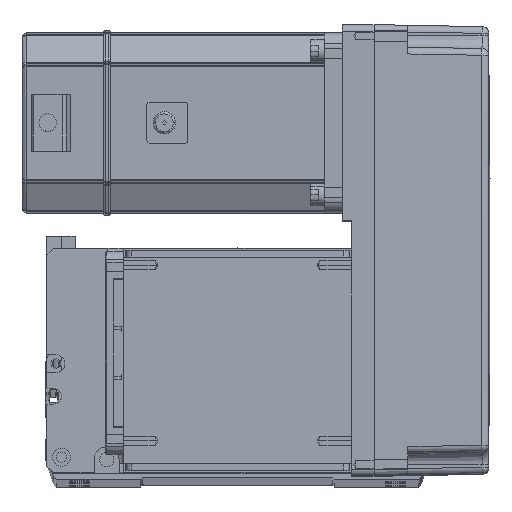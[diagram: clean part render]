
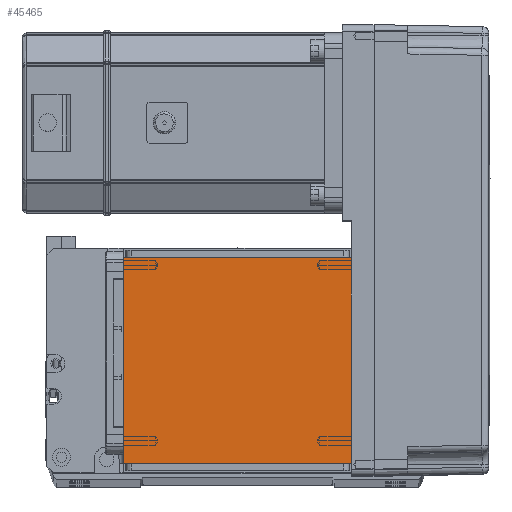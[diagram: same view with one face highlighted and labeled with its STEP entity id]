
A CAD part, top view. The second image highlights one B-rep face of the part: STEP entity #45465.
In plain terms, the highlighted planar face has unit normal (0, 0, 1).
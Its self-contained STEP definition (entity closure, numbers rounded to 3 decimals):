
#2383 = DIRECTION ( 'NONE',  ( 0., 1., 0. ) ) ;
#2502 = DIRECTION ( 'NONE',  ( -1., 0., 0. ) ) ;
#3991 = CARTESIAN_POINT ( 'NONE',  ( -70.004, 111.5, 115. ) ) ;
#9363 = CARTESIAN_POINT ( 'NONE',  ( 50.5, 20., 115. ) ) ;
#10563 = CARTESIAN_POINT ( 'NONE',  ( 0., 0., 115. ) ) ;
#10962 = DIRECTION ( 'NONE',  ( 0., 0., 1. ) ) ;
#12139 = CARTESIAN_POINT ( 'NONE',  ( -50.5, 122., 115. ) ) ;
#14836 = EDGE_LOOP ( 'NONE', ( #16958, #56729, #48480, #26391 ) ) ;
#16691 = DIRECTION ( 'NONE',  ( 0., -1., 0. ) ) ;
#16958 = ORIENTED_EDGE ( 'NONE', *, *, #37698, .F. ) ;
#22488 = CARTESIAN_POINT ( 'NONE',  ( -50.5, 20., 115. ) ) ;
#22565 = DIRECTION ( 'NONE',  ( 1., 0., 0. ) ) ;
#24299 = VECTOR ( 'NONE', #2383, 1000. ) ;
#24569 = PLANE ( 'NONE',  #43157 ) ;
#25401 = FACE_OUTER_BOUND ( 'NONE', #14836, .T. ) ;
#25752 = VECTOR ( 'NONE', #16691, 1000. ) ;
#26391 = ORIENTED_EDGE ( 'NONE', *, *, #53764, .T. ) ;
#28770 = LINE ( 'NONE', #12139, #25752 ) ;
#28807 = VERTEX_POINT ( 'NONE', #51178 ) ;
#32357 = VERTEX_POINT ( 'NONE', #57209 ) ;
#32415 = VERTEX_POINT ( 'NONE', #9363 ) ;
#36173 = CARTESIAN_POINT ( 'NONE',  ( -70.004, 20., 115. ) ) ;
#37698 = EDGE_CURVE ( 'NONE', #28807, #32357, #43932, .T. ) ;
#42302 = EDGE_CURVE ( 'NONE', #28807, #49663, #28770, .T. ) ;
#43157 = AXIS2_PLACEMENT_3D ( 'NONE', #10563, #10962, #53454 ) ;
#43932 = LINE ( 'NONE', #3991, #49105 ) ;
#45333 = LINE ( 'NONE', #45931, #24299 ) ;
#45465 = ADVANCED_FACE ( 'NONE', ( #25401 ), #24569, .T. ) ;
#45931 = CARTESIAN_POINT ( 'NONE',  ( 50.5, 122., 115. ) ) ;
#48480 = ORIENTED_EDGE ( 'NONE', *, *, #59247, .F. ) ;
#49105 = VECTOR ( 'NONE', #22565, 1000. ) ;
#49663 = VERTEX_POINT ( 'NONE', #22488 ) ;
#49931 = VECTOR ( 'NONE', #2502, 1000. ) ;
#51178 = CARTESIAN_POINT ( 'NONE',  ( -50.5, 111.5, 115. ) ) ;
#53454 = DIRECTION ( 'NONE',  ( 1., 0., 0. ) ) ;
#53764 = EDGE_CURVE ( 'NONE', #32415, #32357, #45333, .T. ) ;
#56729 = ORIENTED_EDGE ( 'NONE', *, *, #42302, .T. ) ;
#57209 = CARTESIAN_POINT ( 'NONE',  ( 50.5, 111.5, 115. ) ) ;
#58089 = LINE ( 'NONE', #36173, #49931 ) ;
#59247 = EDGE_CURVE ( 'NONE', #32415, #49663, #58089, .T. ) ;
